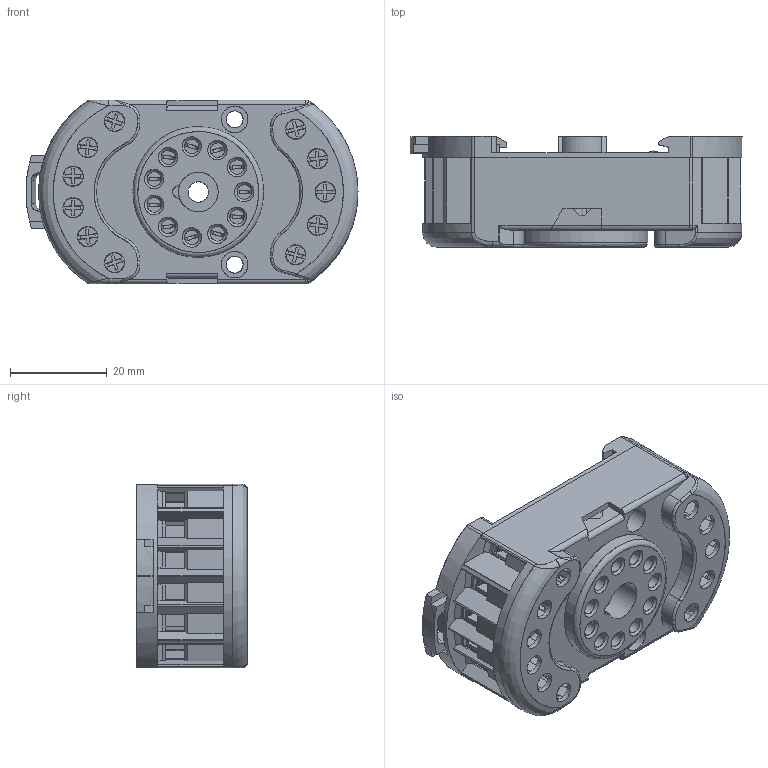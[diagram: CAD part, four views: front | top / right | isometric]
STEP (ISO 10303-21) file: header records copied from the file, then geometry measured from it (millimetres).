
FILE_DESCRIPTION(('STEP AP214'),'2;1');
FILE_NAME('903 Undecal.stp','2010-12-07T10:21:08',(''),(''),'2007.1.106','THINKDESIGN','');
FILE_SCHEMA(('AUTOMOTIVE_DESIGN'));
Products named in the file (1): None
Bounding box: 68.6 x 22.9 x 38 mm (x, y, z)
Surface area: 23342.8 mm2 (no closed solid volume)
Topology: 0 solids, 0 shells, 1324 faces, 8612 edges, 8570 vertices
Faces by surface type: plane 961, cylinder 252, bspline 111
Full cylindrical faces by diameter (mm): 1.5 x1, 3 x11, 3.5 x4, 4.2 x13, 5.5 x2, 8 x1, 8.2 x1, 27 x1
Entity records: 87967 total; most frequent: CARTESIAN_POINT 29868, DIRECTION 10169, COMPOSITE_CURVE_SEGMENT 8612, TRIMMED_CURVE 7120, VECTOR 6597, LINE 6597, AXIS2_PLACEMENT_3D 1786, OUTER_BOUNDARY_CURVE 1324
